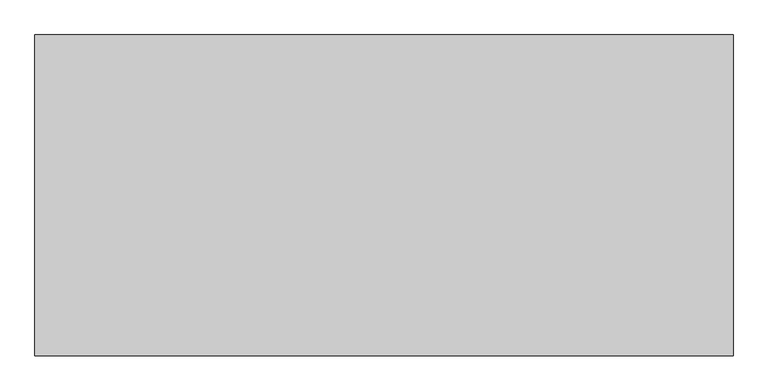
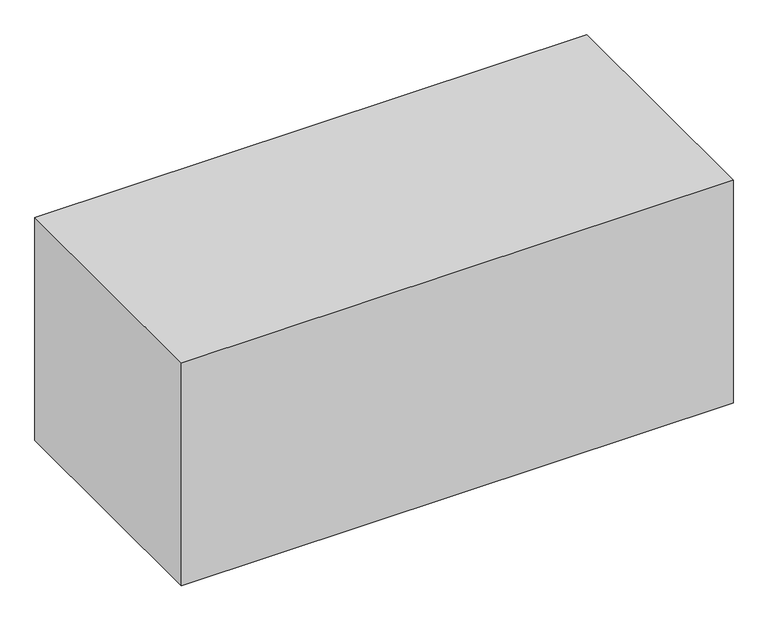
"""IFC4 building model written with IfcOpenShell, lengths in millimetres: proxy geometry."""

from ifc_helpers import new_model, si_unit, origin, origin_with_axes, place, context, project, spatial, polyline, outline, extrude, source, transform, mapped, element, save


def generic_models_084d02a0(model_context):
    return source(origin(), model_context, "Body", "SweptSolid", [
        extrude(outline(polyline([(-90919.9999698, -19300.7903364), (-90919.9999698, -21990.7903364), (-96769.9999698, -21990.7903364), (-96769.9999698, -19300.7903364), (-90919.9999698, -19300.7903364)])), origin_with_axes(), (0.0, 0.0, 1.0), 2500.0),
    ])


if __name__ == "__main__":
    model = new_model("IFC4")
    model_context = context("Model", 3, world=origin())
    ifc_project = project(units=[si_unit("LENGTHUNIT", "METRE", prefix="MILLI")], contexts=[model_context])
    site = spatial("IfcSite", under=ifc_project)
    building = spatial("IfcBuilding", under=site)
    placement = place(None, origin())
    generic_models_shape = generic_models_084d02a0(model_context)
    element("IfcBuildingElementProxy", 1, Name="Generic Models", at=placement, inside=building, context=model_context, shape_type="MappedRepresentation", body=[
        mapped(generic_models_shape, transform((0.0, 0.0, 0.0), x_axis=(1.0, 0.0, 0.0), y_axis=(0.0, 1.0, 0.0), z_axis=(0.0, 0.0, 1.0))),
    ])
    save(model, "model.ifc")
